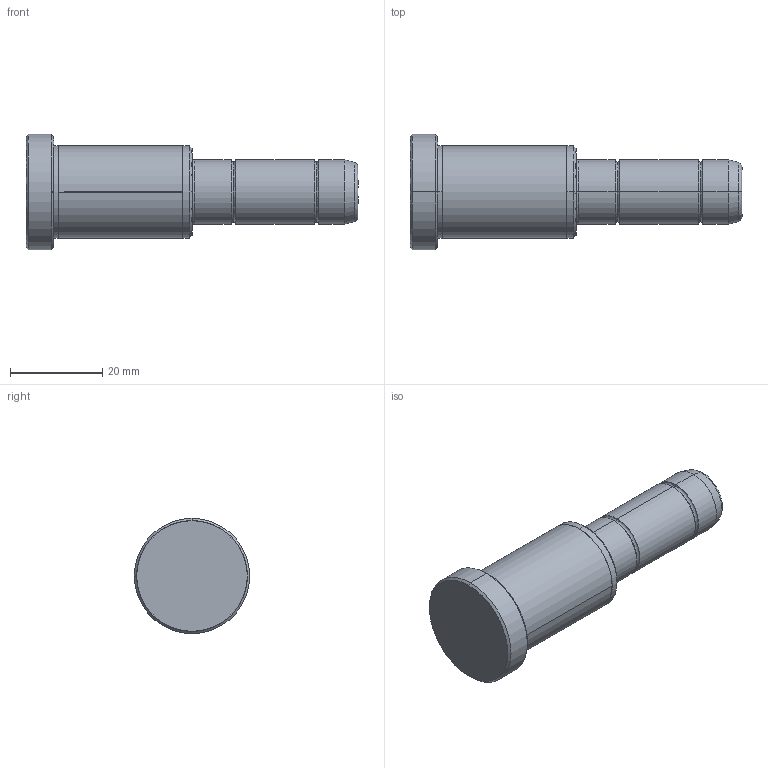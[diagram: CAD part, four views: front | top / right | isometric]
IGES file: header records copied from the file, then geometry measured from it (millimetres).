
Start section: SolidWorks IGES file using analytic representation for surfaces
Global section: file name: C:\Users\Dell\Desktop\deltakont\kontrol edilecekler\D02\Ø14\D02_14x36x36.IGS; native system: SolidWorks 2010; preprocessor: SolidWorks 2010; author: Dell; date: 111225.230946; units: millimetre
Bounding box: 72 x 25 x 25 mm (x, y, z)
Surface area: 4847.9 mm2 (no closed solid volume)
Topology: 0 solids, 0 shells, 42 faces, 463 edges, 463 vertices
Faces by surface type: revolution 24, bspline 18
